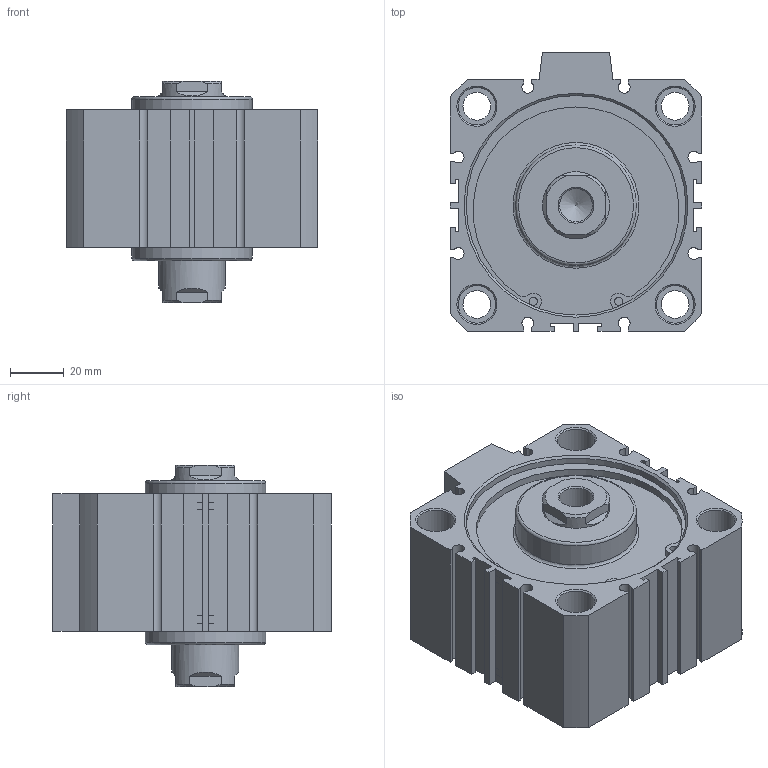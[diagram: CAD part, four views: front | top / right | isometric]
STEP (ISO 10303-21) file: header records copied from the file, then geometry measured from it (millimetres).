
FILE_DESCRIPTION((''),'2;1');
FILE_NAME('I:\3D電子目錄\氣缸\JDD\JDD\JDD80\JDD80x10.stp','2007-02-08T11:46:36',('662F206'),(''),'Autodesk Inventor 10','Autodesk Inventor 10','');
FILE_SCHEMA(('AUTOMOTIVE_DESIGN { 1 0 10303 214 1 1 1 1 }'));
Length unit declared in the file: millimetre
Products named in the file (3): JDD80; R 形環 82
Assembly tree (3 placements, depth 2):
  JDD80
    JDD80
    R 形環 82  x2
Bounding box: 94 x 104 x 82.7 mm (x, y, z)
Volume: 402267.3 mm3; surface area: 70451.3 mm2
Topology: 3 solids, 3 shells, 200 faces, 502 edges, 330 vertices
Faces by surface type: plane 116, cylinder 52, cone 24, bspline 6, torus 2
Full cylindrical faces by diameter (mm): 3.1 x4, 3.5 x2, 10.4 x4, 14 x8, 25 x2, 45 x2, 82 x4, 85.5 x2
Entity records: 5511 total; most frequent: CARTESIAN_POINT 1094, DIRECTION 908, ORIENTED_EDGE 824, EDGE_CURVE 412, AXIS2_PLACEMENT_3D 324, VERTEX_POINT 300, EDGE_LOOP 272, VECTOR 260
